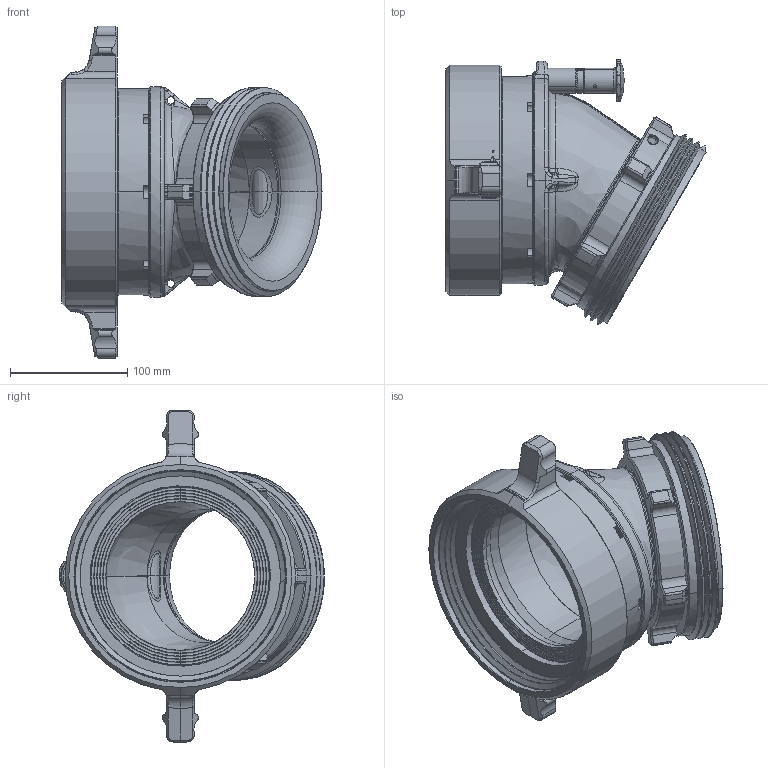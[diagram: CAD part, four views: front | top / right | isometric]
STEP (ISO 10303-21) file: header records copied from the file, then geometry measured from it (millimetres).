
FILE_DESCRIPTION (( 'STEP AP203' ), '1' );
FILE_NAME ('AJ8NX-NX.STEP', '2014-09-02T19:26:14', ( '' ), ( '' ), 'SwSTEP 2.0', 'SolidWorks 2014', '' );
FILE_SCHEMA (( 'CONFIG_CONTROL_DESIGN' ));
Length unit declared in the file: inch
Products named in the file (1): AJ8NX-NX
Bounding box: 222.01 x 226.26 x 283.46 mm (x, y, z)
Surface area: 316710.5 mm2 (no closed solid volume)
Topology: 0 solids, 24 shells, 663 faces, 1882 edges, 1211 vertices
Faces by surface type: cylinder 183, plane 126, cone 121, bspline 117, torus 106, sphere 10
Entity records: 36521 total; most frequent: CARTESIAN_POINT 20657, ORIENTED_EDGE 3460, DIRECTION 3029, EDGE_CURVE 1881, AXIS2_PLACEMENT_3D 1247, VERTEX_POINT 1211, CIRCLE 700, EDGE_LOOP 689
